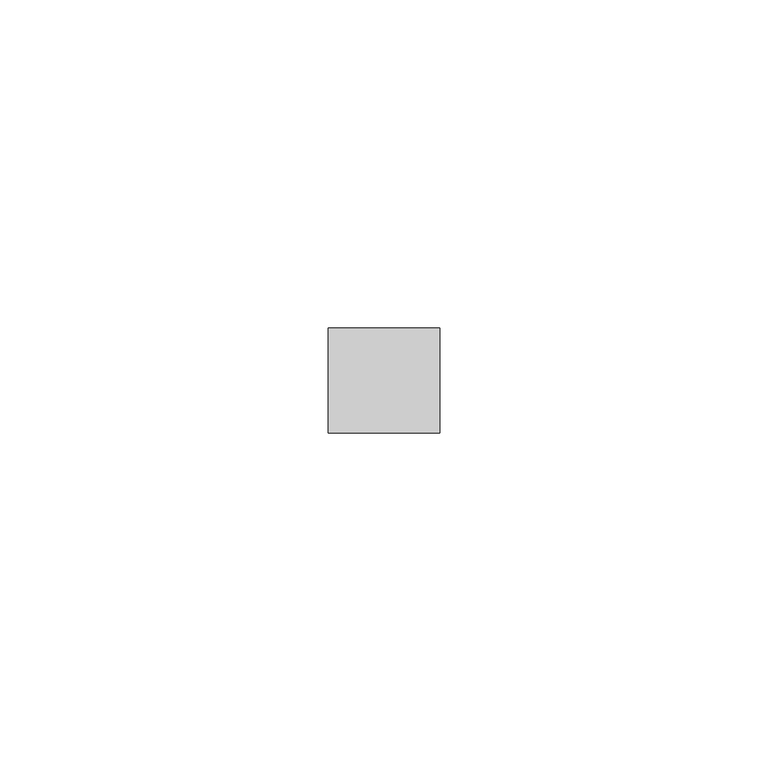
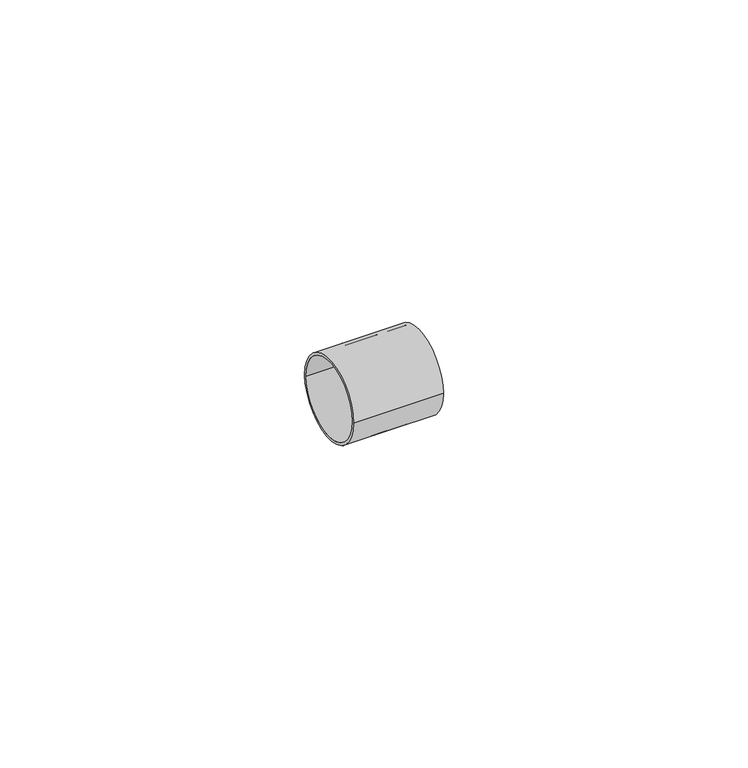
"""IFC4 building model written with IfcOpenShell, lengths in millimetres: pipe fitting geometry, БИР ПЕКС_НПР_Гильза : Гильза для труб ПЕКС."""

from ifc_helpers import new_model, si_unit, point, frame, origin, origin_2d, place, context, project, spatial, circle_curve, trimmed, segment, composite_curve, outline, extrude, source, transform, mapped, element, save


def pipe_fitting_255188b3(model_context):
    return source(origin(), model_context, "Body", "SweptSolid", [
        extrude(outline(composite_curve([segment(trimmed(circle_curve(origin_2d(), 8.0), [point((-8.0, 0.0))], [point((8.0, 0.0))], False, "CARTESIAN"), True, "CONTINUOUS"), segment(trimmed(circle_curve(origin_2d(), 8.0), [point((8.0, 0.0))], [point((-8.0, 0.0))], False, "CARTESIAN"), True, "CONTINUOUS")], self_intersect=False), holes=[composite_curve([segment(trimmed(circle_curve(origin_2d(), 7.5), [point((-7.5, 0.0))], [point((7.5, 0.0))], True, "CARTESIAN"), True, "CONTINUOUS"), segment(trimmed(circle_curve(origin_2d(), 7.5), [point((7.5, 0.0))], [point((-7.5, 0.0))], True, "CARTESIAN"), True, "CONTINUOUS")], self_intersect=False)]), frame((-8.5, 0.0, 0.0), z_axis=(1.0, 0.0, 0.0), x_axis=(0.0, 1.0, 0.0)), (0.0, 0.0, 1.0), 17.0),
        extrude(outline(composite_curve([segment(trimmed(circle_curve(origin_2d(), 8.0), [point((-8.0, 0.0))], [point((8.0, 0.0))], False, "CARTESIAN"), True, "CONTINUOUS"), segment(trimmed(circle_curve(origin_2d(), 8.0), [point((8.0, 0.0))], [point((-8.0, 0.0))], False, "CARTESIAN"), True, "CONTINUOUS")], self_intersect=False), holes=[composite_curve([segment(trimmed(circle_curve(origin_2d(), 7.5), [point((-7.5, 0.0))], [point((7.5, 0.0))], True, "CARTESIAN"), True, "CONTINUOUS"), segment(trimmed(circle_curve(origin_2d(), 7.5), [point((7.5, 0.0))], [point((-7.5, 0.0))], True, "CARTESIAN"), True, "CONTINUOUS")], self_intersect=False)]), frame((-3.0, 0.0, 0.0), z_axis=(1.0, 0.0, 0.0), x_axis=(0.0, 1.0, 0.0)), (0.0, 0.0, 1.0), 6.0),
    ])


if __name__ == "__main__":
    model = new_model("IFC4")
    model_context = context("Model", 3, world=origin())
    ifc_project = project(units=[si_unit("LENGTHUNIT", "METRE", prefix="MILLI")], contexts=[model_context])
    site = spatial("IfcSite", under=ifc_project)
    building = spatial("IfcBuilding", under=site)
    placement = place(None, origin())
    pipe_fitting_shape = pipe_fitting_255188b3(model_context)
    element("IfcPipeFitting", 1, ObjectType="БИР ПЕКС_НПР_Гильза : Гильза для труб ПЕКС", at=placement, inside=building, context=model_context, shape_type="MappedRepresentation", body=[
        mapped(pipe_fitting_shape, transform((0.0, 0.0, 0.0), x_axis=(1.0, 0.0, 0.0), y_axis=(0.0, 1.0, 0.0), z_axis=(0.0, 0.0, 1.0))),
    ])
    save(model, "model.ifc")
